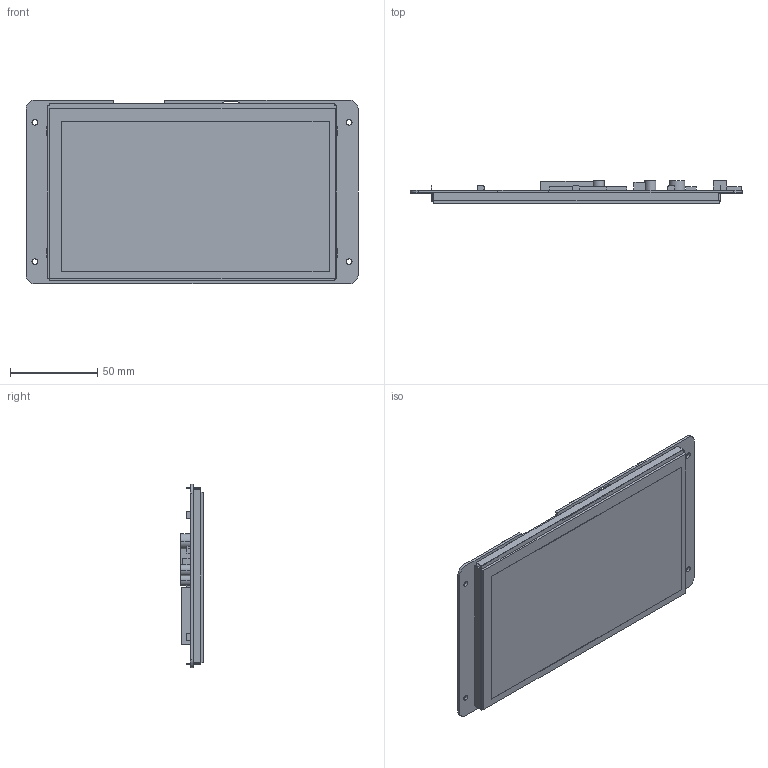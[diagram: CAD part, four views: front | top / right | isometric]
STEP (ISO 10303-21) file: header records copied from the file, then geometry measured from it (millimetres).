
FILE_DESCRIPTION((''),'2;1');
FILE_NAME('DMG80480C070-04WTC_ASM','2021-12-02T',('Administrator'),(''),'PRO/ENGINEER BY PARAMETRIC TECHNOLOGY CORPORATION, 2014320','PRO/ENGINEER BY PARAMETRIC TECHNOLOGY CORPORATION, 2014320','');
FILE_SCHEMA(('CONFIG_CONTROL_DESIGN','SHAPE_APPEARANCE_LAYERS_GROUPS'));
Length unit declared in the file: millimetre
Products named in the file (5): TK070019; LN80480C070IA2004; PCB; YF07002; DMG80480C070-04WTC_ASM
Assembly tree (4 placements, depth 2):
  DMG80480C070-04WTC_ASM
    TK070019
    LN80480C070IA2004
    PCB
    YF07002
Bounding box: 190.5 x 13.3 x 105.41 mm (x, y, z)
Volume: 115951.9 mm3; surface area: 121713.4 mm2
Topology: 4 solids, 4 shells, 298 faces, 822 edges, 548 vertices
Faces by surface type: plane 238, cylinder 60
Entity records: 10733 total; most frequent: CARTESIAN_POINT 1677, ORIENTED_EDGE 1644, DIRECTION 1556, EDGE_CURVE 822, VECTOR 702, LINE 702, VERTEX_POINT 548, AXIS2_PLACEMENT_3D 427
